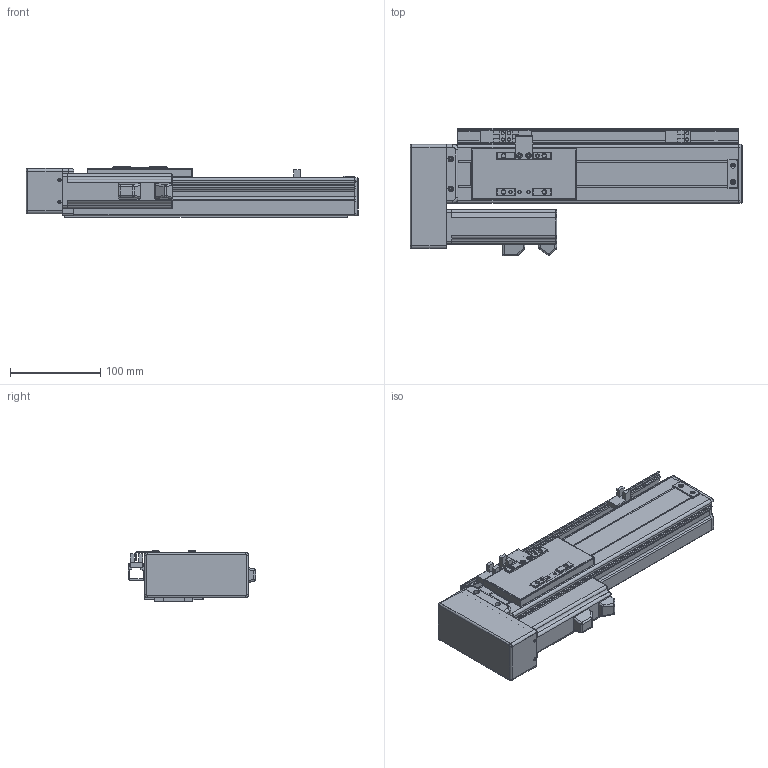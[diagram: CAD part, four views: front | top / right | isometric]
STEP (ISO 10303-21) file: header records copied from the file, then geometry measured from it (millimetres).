
FILE_DESCRIPTION (( 'STEP AP203' ), '1' );
FILE_NAME ('VT6-S160-BL.STEP', '2016-06-17T09:46:52', ( '' ), ( '' ), 'SwSTEP 2.0', 'SolidWorks 2013', '' );
FILE_SCHEMA (( 'CONFIG_CONTROL_DESIGN' ));
Length unit declared in the file: millimetre
Products named in the file (17): T6-揤輸; T6-BMRL肮祭湍謫欶; T6-覜茼え; T6-BRL萇儂假蚾啣; T6-綴傷裔; 侂狟100W MSMD012G1V; EE-XS674; VT6-S160-BL; ET6-BLRM絳寢_俴最160; ET6-BC耜啣_160; ET6-BLRM滅鳥湍_160; ET6-BC癹弇羲壽羞_160; ET6-BLRM佪裝_160; T6-賑雄殤; T6-BMLRヶ傷裔; T6-裔啣; T6-BMRLヶ傷裔揤啣
Assembly tree (19 placements, depth 2):
  VT6-S160-BL
    ET6-BC耜啣_160  x2
    ET6-BC癹弇羲壽羞_160
    T6-賑雄殤
    T6-裔啣
    T6-揤輸
    T6-覜茼え
    T6-綴傷裔
    EE-XS674  x3
    ET6-BLRM絳寢_俴最160
    ET6-BLRM滅鳥湍_160
    ET6-BLRM佪裝_160
    T6-BMLRヶ傷裔
    T6-BMRLヶ傷裔揤啣
    T6-BMRL肮祭湍謫欶
    T6-BRL萇儂假蚾啣
    侂狟100W MSMD012G1V
Bounding box: 367 x 141 x 56 mm (x, y, z)
Volume: 613962.8 mm3; surface area: 334679 mm2
Topology: 19 solids, 19 shells, 873 faces, 2304 edges, 1456 vertices
Faces by surface type: cylinder 399, plane 374, cone 46, torus 36, sphere 18
Entity records: 26805 total; most frequent: CARTESIAN_POINT 4513, DIRECTION 4462, ORIENTED_EDGE 4126, EDGE_CURVE 2063, AXIS2_PLACEMENT_3D 1625, VERTEX_POINT 1316, VECTOR 1212, LINE 1212
